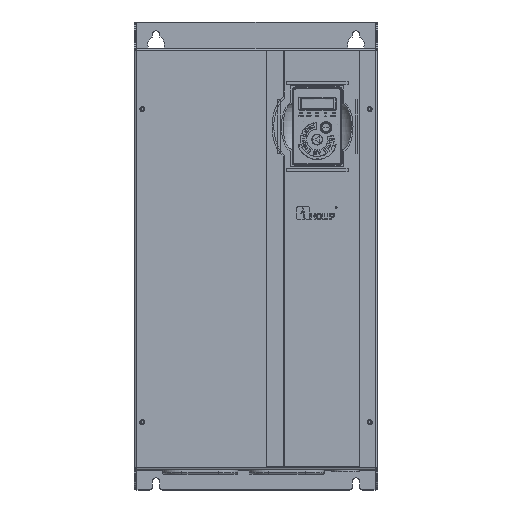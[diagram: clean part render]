
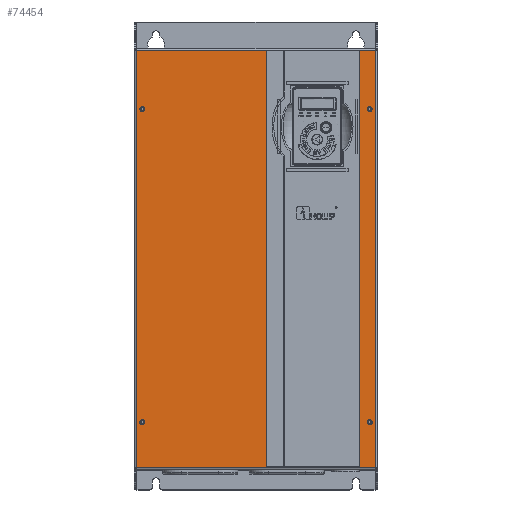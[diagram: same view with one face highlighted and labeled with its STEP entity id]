
A CAD part, top view. The second image highlights one B-rep face of the part: STEP entity #74454.
In plain terms, the highlighted planar face has unit normal (0, 0, 1).
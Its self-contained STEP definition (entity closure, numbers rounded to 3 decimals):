
#26227=DIRECTION('',(0.,-1.,0.));
#26228=VECTOR('',#26227,501.25);
#26229=CARTESIAN_POINT('',(-143.75,246.65,238.3));
#26230=LINE('',#26229,#26228);
#26239=CARTESIAN_POINT('',(-136.5,176.,238.3));
#26240=DIRECTION('',(0.,0.,1.));
#26241=DIRECTION('',(-1.,0.,0.));
#26242=AXIS2_PLACEMENT_3D('',#26239,#26240,#26241);
#26244=CARTESIAN_POINT('',(-136.5,176.,238.3));
#26245=DIRECTION('',(0.,0.,1.));
#26246=DIRECTION('',(1.,0.,0.));
#26247=AXIS2_PLACEMENT_3D('',#26244,#26245,#26246);
#26249=CARTESIAN_POINT('',(136.5,176.,238.3));
#26250=DIRECTION('',(0.,0.,1.));
#26251=DIRECTION('',(-1.,0.,0.));
#26252=AXIS2_PLACEMENT_3D('',#26249,#26250,#26251);
#26254=CARTESIAN_POINT('',(136.5,176.,238.3));
#26255=DIRECTION('',(0.,0.,1.));
#26256=DIRECTION('',(1.,0.,0.));
#26257=AXIS2_PLACEMENT_3D('',#26254,#26255,#26256);
#26259=CARTESIAN_POINT('',(136.5,-200.,238.3));
#26260=DIRECTION('',(0.,0.,1.));
#26261=DIRECTION('',(1.,0.,0.));
#26262=AXIS2_PLACEMENT_3D('',#26259,#26260,#26261);
#26264=CARTESIAN_POINT('',(136.5,-200.,238.3));
#26265=DIRECTION('',(0.,0.,1.));
#26266=DIRECTION('',(-1.,0.,0.));
#26267=AXIS2_PLACEMENT_3D('',#26264,#26265,#26266);
#26269=CARTESIAN_POINT('',(-136.5,-200.,238.3));
#26270=DIRECTION('',(0.,0.,1.));
#26271=DIRECTION('',(1.,0.,0.));
#26272=AXIS2_PLACEMENT_3D('',#26269,#26270,#26271);
#26274=CARTESIAN_POINT('',(-136.5,-200.,238.3));
#26275=DIRECTION('',(0.,0.,1.));
#26276=DIRECTION('',(-1.,0.,0.));
#26277=AXIS2_PLACEMENT_3D('',#26274,#26275,#26276);
#26279=DIRECTION('',(1.,0.,0.));
#26280=VECTOR('',#26279,287.5);
#26281=CARTESIAN_POINT('',(-143.75,246.65,238.3));
#26282=LINE('',#26281,#26280);
#26395=DIRECTION('',(0.,-1.,0.));
#26396=VECTOR('',#26395,501.25);
#26397=CARTESIAN_POINT('',(143.75,246.65,238.3));
#26398=LINE('',#26397,#26396);
#26445=CARTESIAN_POINT('',(143.75,-254.6,238.3));
#26490=DIRECTION('',(1.,0.,0.));
#26491=VECTOR('',#26490,287.5);
#26492=CARTESIAN_POINT('',(-143.75,-254.6,238.3));
#26493=LINE('',#26492,#26491);
#27599=DIRECTION('',(0.,-1.,0.));
#27600=VECTOR('',#27599,500.);
#27601=CARTESIAN_POINT('',(12.6,246.4,238.3));
#27602=LINE('',#27601,#27600);
#27615=DIRECTION('',(1.,0.,0.));
#27616=VECTOR('',#27615,111.9);
#27617=CARTESIAN_POINT('',(12.6,246.4,238.3));
#27618=LINE('',#27617,#27616);
#27619=DIRECTION('',(0.,1.,0.));
#27620=VECTOR('',#27619,500.);
#27621=CARTESIAN_POINT('',(124.5,-253.6,238.3));
#27622=LINE('',#27621,#27620);
#27635=DIRECTION('',(-1.,0.,0.));
#27636=VECTOR('',#27635,111.9);
#27637=CARTESIAN_POINT('',(124.5,-253.6,238.3));
#27638=LINE('',#27637,#27636);
#34292=VERTEX_POINT('',#26445);
#34305=CARTESIAN_POINT('',(-143.75,246.65,238.3));
#34306=CARTESIAN_POINT('',(-143.75,-254.6,238.3));
#34307=VERTEX_POINT('',#34305);
#34308=VERTEX_POINT('',#34306);
#34313=CARTESIAN_POINT('',(143.75,246.65,238.3));
#34314=VERTEX_POINT('',#34313);
#34395=CARTESIAN_POINT('',(-139.5,176.,238.3));
#34396=CARTESIAN_POINT('',(-133.5,176.,238.3));
#34397=VERTEX_POINT('',#34395);
#34398=VERTEX_POINT('',#34396);
#34399=CARTESIAN_POINT('',(133.5,176.,238.3));
#34400=CARTESIAN_POINT('',(139.5,176.,238.3));
#34401=VERTEX_POINT('',#34399);
#34402=VERTEX_POINT('',#34400);
#34403=CARTESIAN_POINT('',(139.5,-200.,238.3));
#34404=CARTESIAN_POINT('',(133.5,-200.,238.3));
#34405=VERTEX_POINT('',#34403);
#34406=VERTEX_POINT('',#34404);
#34407=CARTESIAN_POINT('',(-133.5,-200.,238.3));
#34408=CARTESIAN_POINT('',(-139.5,-200.,238.3));
#34409=VERTEX_POINT('',#34407);
#34410=VERTEX_POINT('',#34408);
#34427=CARTESIAN_POINT('',(12.6,246.4,238.3));
#34428=CARTESIAN_POINT('',(12.6,-253.6,238.3));
#34429=VERTEX_POINT('',#34427);
#34430=VERTEX_POINT('',#34428);
#34431=CARTESIAN_POINT('',(124.5,-253.6,238.3));
#34432=CARTESIAN_POINT('',(124.5,246.4,238.3));
#34433=VERTEX_POINT('',#34431);
#34434=VERTEX_POINT('',#34432);
#74406=CARTESIAN_POINT('',(-146.,248.9,238.3));
#74407=DIRECTION('',(0.,0.,1.));
#74408=DIRECTION('',(0.,-1.,0.));
#74409=AXIS2_PLACEMENT_3D('',#74406,#74407,#74408);
#74410=PLANE('',#74409);
#74411=ORIENTED_EDGE('',*,*,#74399,.F.);
#74413=ORIENTED_EDGE('',*,*,#74412,.T.);
#74415=ORIENTED_EDGE('',*,*,#74414,.T.);
#74417=ORIENTED_EDGE('',*,*,#74416,.F.);
#74418=EDGE_LOOP('',(#74411,#74413,#74415,#74417));
#74419=FACE_OUTER_BOUND('',#74418,.F.);
#74421=ORIENTED_EDGE('',*,*,#74420,.T.);
#74423=ORIENTED_EDGE('',*,*,#74422,.T.);
#74424=EDGE_LOOP('',(#74421,#74423));
#74425=FACE_BOUND('',#74424,.F.);
#74427=ORIENTED_EDGE('',*,*,#74426,.T.);
#74429=ORIENTED_EDGE('',*,*,#74428,.T.);
#74430=EDGE_LOOP('',(#74427,#74429));
#74431=FACE_BOUND('',#74430,.F.);
#74433=ORIENTED_EDGE('',*,*,#74432,.T.);
#74435=ORIENTED_EDGE('',*,*,#74434,.T.);
#74436=EDGE_LOOP('',(#74433,#74435));
#74437=FACE_BOUND('',#74436,.F.);
#74439=ORIENTED_EDGE('',*,*,#74438,.T.);
#74441=ORIENTED_EDGE('',*,*,#74440,.T.);
#74442=EDGE_LOOP('',(#74439,#74441));
#74443=FACE_BOUND('',#74442,.F.);
#74445=ORIENTED_EDGE('',*,*,#74444,.T.);
#74447=ORIENTED_EDGE('',*,*,#74446,.F.);
#74449=ORIENTED_EDGE('',*,*,#74448,.T.);
#74451=ORIENTED_EDGE('',*,*,#74450,.F.);
#74452=EDGE_LOOP('',(#74445,#74447,#74449,#74451));
#74453=FACE_BOUND('',#74452,.F.);
#74454=ADVANCED_FACE('',(#74419,#74425,#74431,#74437,#74443,#74453),#74410,.T.);
#26243=CIRCLE('',#26242,3.);
#26248=CIRCLE('',#26247,3.);
#26253=CIRCLE('',#26252,3.);
#26258=CIRCLE('',#26257,3.);
#26263=CIRCLE('',#26262,3.);
#26268=CIRCLE('',#26267,3.);
#26273=CIRCLE('',#26272,3.);
#26278=CIRCLE('',#26277,3.);
#74399=EDGE_CURVE('',#34307,#34308,#26230,.T.);
#74412=EDGE_CURVE('',#34307,#34314,#26282,.T.);
#74414=EDGE_CURVE('',#34314,#34292,#26398,.T.);
#74416=EDGE_CURVE('',#34308,#34292,#26493,.T.);
#74420=EDGE_CURVE('',#34397,#34398,#26243,.T.);
#74422=EDGE_CURVE('',#34398,#34397,#26248,.T.);
#74426=EDGE_CURVE('',#34401,#34402,#26253,.T.);
#74428=EDGE_CURVE('',#34402,#34401,#26258,.T.);
#74432=EDGE_CURVE('',#34405,#34406,#26263,.T.);
#74434=EDGE_CURVE('',#34406,#34405,#26268,.T.);
#74438=EDGE_CURVE('',#34409,#34410,#26273,.T.);
#74440=EDGE_CURVE('',#34410,#34409,#26278,.T.);
#74444=EDGE_CURVE('',#34429,#34430,#27602,.T.);
#74446=EDGE_CURVE('',#34433,#34430,#27638,.T.);
#74448=EDGE_CURVE('',#34433,#34434,#27622,.T.);
#74450=EDGE_CURVE('',#34429,#34434,#27618,.T.);
